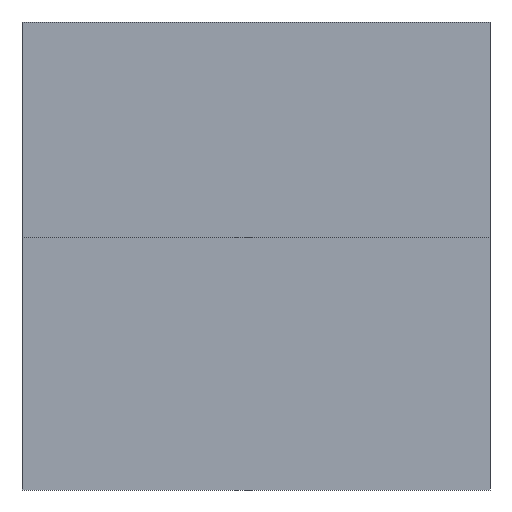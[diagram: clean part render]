
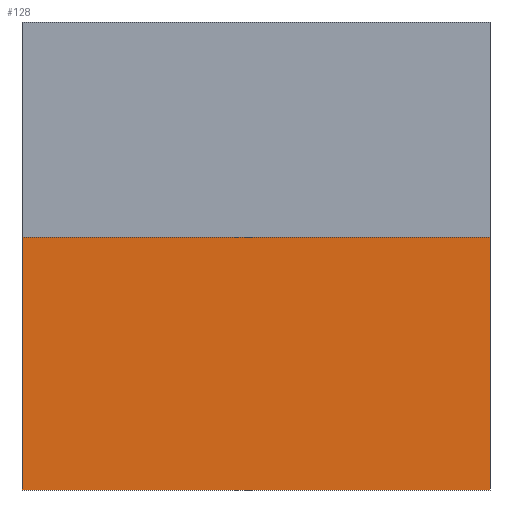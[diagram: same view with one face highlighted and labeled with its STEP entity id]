
A CAD part, front view. The second image highlights one B-rep face of the part: STEP entity #128.
In plain terms, the highlighted planar face has unit normal (0, -1, 0).
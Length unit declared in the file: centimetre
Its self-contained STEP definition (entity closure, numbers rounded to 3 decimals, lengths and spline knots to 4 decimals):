
#3 = CARTESIAN_POINT ( 'NONE',  ( 1000., 874.1828, 0. ) ) ;
#6 = CARTESIAN_POINT ( 'NONE',  ( 1000., 874.1828, 0. ) ) ;
#10 = EDGE_CURVE ( 'NONE', #133, #213, #251, .T. ) ;
#40 = DIRECTION ( 'NONE',  ( 0., 1., 0. ) ) ;
#43 = PLANE ( 'NONE',  #167 ) ;
#55 = CARTESIAN_POINT ( 'NONE',  ( 1000., 874.1828, 540.0739 ) ) ;
#83 = LINE ( 'NONE', #55, #208 ) ;
#87 = VERTEX_POINT ( 'NONE', #375 ) ;
#95 = EDGE_LOOP ( 'NONE', ( #357, #215, #216, #212 ) ) ;
#96 = VECTOR ( 'NONE', #269, 100. ) ;
#119 = DIRECTION ( 'NONE',  ( 0., 0., -1. ) ) ;
#128 = ADVANCED_FACE ( 'NONE', ( #314 ), #43, .F. ) ;
#133 = VERTEX_POINT ( 'NONE', #6 ) ;
#166 = CARTESIAN_POINT ( 'NONE',  ( 1000., 874.1828, 0. ) ) ;
#167 = AXIS2_PLACEMENT_3D ( 'NONE', #166, #40, #285 ) ;
#207 = LINE ( 'NONE', #273, #96 ) ;
#208 = VECTOR ( 'NONE', #322, 100. ) ;
#212 = ORIENTED_EDGE ( 'NONE', *, *, #272, .T. ) ;
#213 = VERTEX_POINT ( 'NONE', #384 ) ;
#215 = ORIENTED_EDGE ( 'NONE', *, *, #10, .F. ) ;
#216 = ORIENTED_EDGE ( 'NONE', *, *, #374, .F. ) ;
#244 = LINE ( 'NONE', #388, #353 ) ;
#245 = DIRECTION ( 'NONE',  ( -1., 0., 0. ) ) ;
#251 = LINE ( 'NONE', #3, #326 ) ;
#269 = DIRECTION ( 'NONE',  ( 0., 0., -1. ) ) ;
#272 = EDGE_CURVE ( 'NONE', #87, #401, #83, .T. ) ;
#273 = CARTESIAN_POINT ( 'NONE',  ( 0., 874.1828, 0. ) ) ;
#285 = DIRECTION ( 'NONE',  ( 0., 0., 1. ) ) ;
#311 = EDGE_CURVE ( 'NONE', #401, #213, #207, .T. ) ;
#314 = FACE_OUTER_BOUND ( 'NONE', #95, .T. ) ;
#322 = DIRECTION ( 'NONE',  ( -1., 0., 0. ) ) ;
#326 = VECTOR ( 'NONE', #245, 100. ) ;
#332 = CARTESIAN_POINT ( 'NONE',  ( 0., 874.1828, 540.0739 ) ) ;
#353 = VECTOR ( 'NONE', #119, 100. ) ;
#357 = ORIENTED_EDGE ( 'NONE', *, *, #311, .T. ) ;
#374 = EDGE_CURVE ( 'NONE', #87, #133, #244, .T. ) ;
#375 = CARTESIAN_POINT ( 'NONE',  ( 1000., 874.1828, 540.0739 ) ) ;
#384 = CARTESIAN_POINT ( 'NONE',  ( 0., 874.1828, 0. ) ) ;
#388 = CARTESIAN_POINT ( 'NONE',  ( 1000., 874.1828, 0. ) ) ;
#401 = VERTEX_POINT ( 'NONE', #332 ) ;
